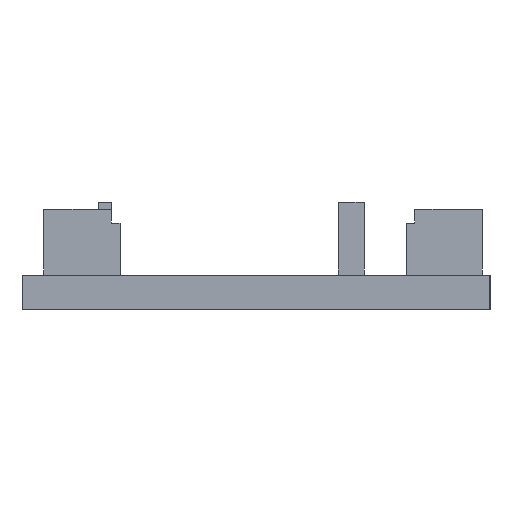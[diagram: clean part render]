
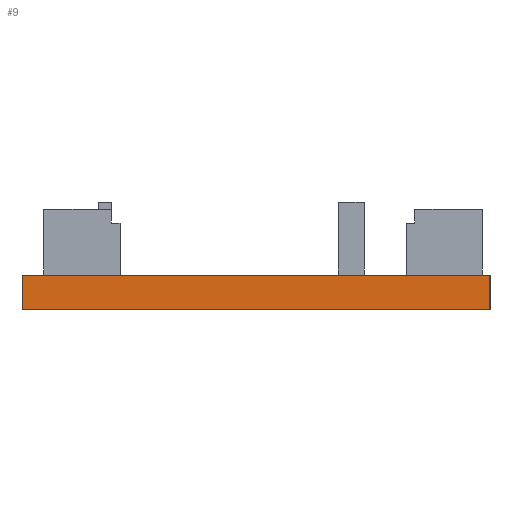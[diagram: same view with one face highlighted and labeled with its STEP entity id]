
A CAD part, left-side view. The second image highlights one B-rep face of the part: STEP entity #9.
In plain terms, the highlighted planar face has unit normal (-1, 0, 0).
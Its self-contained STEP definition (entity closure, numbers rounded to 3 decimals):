
#9 = ADVANCED_FACE ( 'NONE', ( #1626 ), #923, .F. ) ;
#26 = ORIENTED_EDGE ( 'NONE', *, *, #223, .F. ) ;
#40 = CARTESIAN_POINT ( 'NONE',  ( -35., 35., 4. ) ) ;
#103 = DIRECTION ( 'NONE',  ( 0., 0., -1. ) ) ;
#110 = VERTEX_POINT ( 'NONE', #1290 ) ;
#158 = ORIENTED_EDGE ( 'NONE', *, *, #1478, .T. ) ;
#194 = DIRECTION ( 'NONE',  ( 0., -1., 0. ) ) ;
#219 = CARTESIAN_POINT ( 'NONE',  ( -35., 35., 4. ) ) ;
#223 = EDGE_CURVE ( 'NONE', #1775, #1003, #692, .T. ) ;
#317 = CARTESIAN_POINT ( 'NONE',  ( -35., 35., 0. ) ) ;
#319 = AXIS2_PLACEMENT_3D ( 'NONE', #219, #783, #103 ) ;
#442 = CARTESIAN_POINT ( 'NONE',  ( -35., -19., 4. ) ) ;
#455 = LINE ( 'NONE', #40, #1533 ) ;
#633 = CARTESIAN_POINT ( 'NONE',  ( -35., -19., 4. ) ) ;
#692 = LINE ( 'NONE', #633, #1474 ) ;
#744 = CARTESIAN_POINT ( 'NONE',  ( -35., 35., 0. ) ) ;
#783 = DIRECTION ( 'NONE',  ( 1., 0., 0. ) ) ;
#860 = EDGE_CURVE ( 'NONE', #110, #1775, #1158, .T. ) ;
#891 = ORIENTED_EDGE ( 'NONE', *, *, #860, .F. ) ;
#923 = PLANE ( 'NONE',  #319 ) ;
#985 = DIRECTION ( 'NONE',  ( 0., -1., 0. ) ) ;
#989 = ORIENTED_EDGE ( 'NONE', *, *, #1434, .T. ) ;
#1002 = CARTESIAN_POINT ( 'NONE',  ( -35., 35., 4. ) ) ;
#1003 = VERTEX_POINT ( 'NONE', #1751 ) ;
#1066 = VECTOR ( 'NONE', #194, 1000. ) ;
#1087 = EDGE_LOOP ( 'NONE', ( #158, #26, #891, #989 ) ) ;
#1158 = LINE ( 'NONE', #1002, #1469 ) ;
#1185 = DIRECTION ( 'NONE',  ( 0., 0., -1. ) ) ;
#1199 = DIRECTION ( 'NONE',  ( 0., 0., -1. ) ) ;
#1290 = CARTESIAN_POINT ( 'NONE',  ( -35., 35., 4. ) ) ;
#1434 = EDGE_CURVE ( 'NONE', #110, #1446, #455, .T. ) ;
#1446 = VERTEX_POINT ( 'NONE', #317 ) ;
#1469 = VECTOR ( 'NONE', #985, 1000. ) ;
#1474 = VECTOR ( 'NONE', #1199, 1000. ) ;
#1478 = EDGE_CURVE ( 'NONE', #1446, #1003, #1605, .T. ) ;
#1533 = VECTOR ( 'NONE', #1185, 1000. ) ;
#1605 = LINE ( 'NONE', #744, #1066 ) ;
#1626 = FACE_OUTER_BOUND ( 'NONE', #1087, .T. ) ;
#1751 = CARTESIAN_POINT ( 'NONE',  ( -35., -19., 0. ) ) ;
#1775 = VERTEX_POINT ( 'NONE', #442 ) ;
